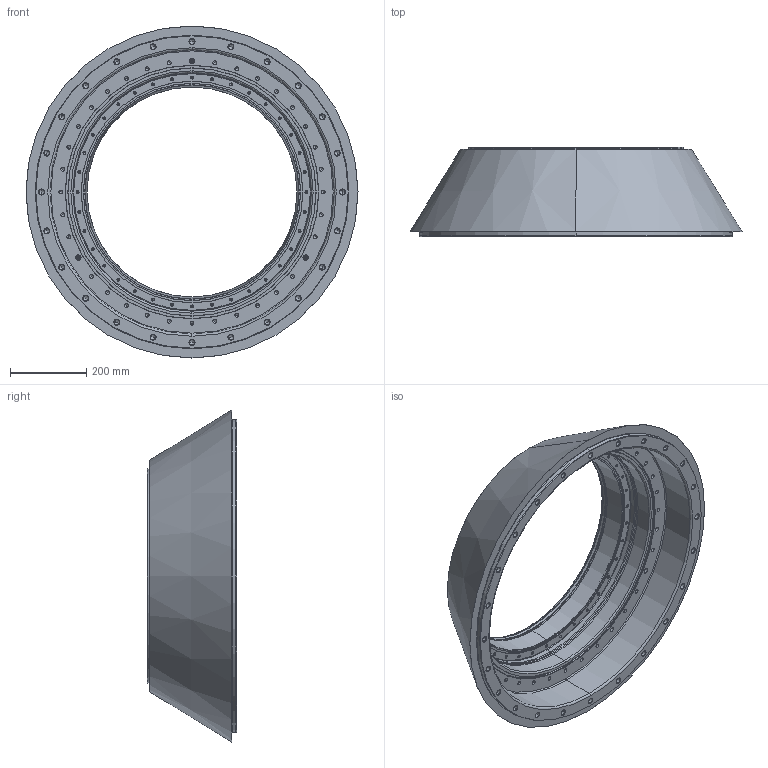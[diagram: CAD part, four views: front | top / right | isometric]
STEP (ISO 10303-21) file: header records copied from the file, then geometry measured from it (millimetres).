
FILE_DESCRIPTION(('CATIA V5 STEP Exchange','CAx-IF Rec.Pracs.--- Composite Materials ---3.4---2017-06-13'),'2;1');
FILE_NAME('C:\Users\PM610867\AppData\Local\ST-WORK_R32_PROD\Liasse-PDF\IEM_PEPSI_CEG_DEF_K_1229_211-CONE_EXT_TUBE_INTERM_COTE_ELECTRODE_FIXE-A.stp','2025-03-31T12:19:39+00:00',('none'),('none'),'CATIA Version 5-6 Release 2022 SP2','CATIA V5 STEP AP203 v2','none');
FILE_SCHEMA(('CONFIG_CONTROL_DESIGN'));
Length unit declared in the file: millimetre
Products named in the file (1): IEM PEPSI CEG DEF K 1229 211
Bounding box: 870.21 x 234.2 x 870.21 mm (x, y, z)
Volume: 21493825.6 mm3; surface area: 1677345.2 mm2
Topology: 1 solids, 1 shells, 701 faces, 1618 edges, 822 vertices
Faces by surface type: cone 398, cylinder 234, torus 56, plane 13
Entity records: 15652 total; most frequent: ORIENTED_EDGE 2804, CARTESIAN_POINT 2585, DIRECTION 2122, EDGE_CURVE 1402, AXIS2_PLACEMENT_3D 1131, EDGE_LOOP 822, VERTEX_POINT 822, CIRCLE 770
